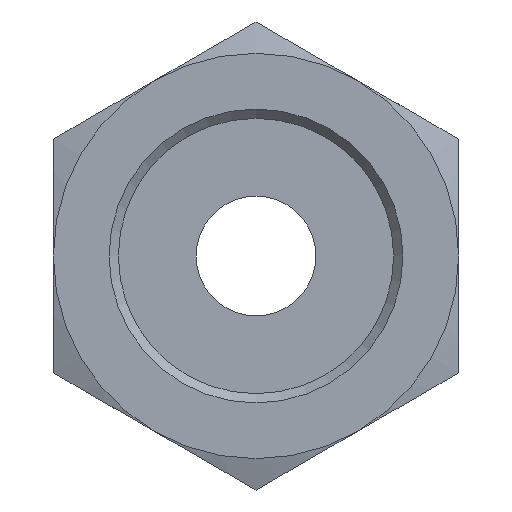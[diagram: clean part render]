
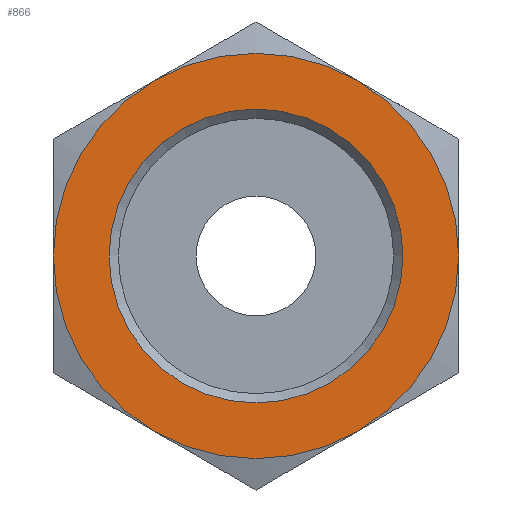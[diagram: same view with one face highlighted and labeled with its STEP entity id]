
A CAD part, front view. The second image highlights one B-rep face of the part: STEP entity #866.
In plain terms, the highlighted planar face has unit normal (0, -1, 0).
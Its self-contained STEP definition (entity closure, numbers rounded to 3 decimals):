
#35=FACE_BOUND('',#229,.T.);
#112=PLANE('',#1031);
#165=FACE_OUTER_BOUND('',#228,.T.);
#228=EDGE_LOOP('',(#733,#734,#735,#736,#737,#738));
#229=EDGE_LOOP('',(#739));
#271=CIRCLE('',#998,11.);
#272=CIRCLE('',#1000,11.);
#273=CIRCLE('',#1002,11.);
#274=CIRCLE('',#1004,11.);
#275=CIRCLE('',#1006,11.);
#276=CIRCLE('',#1008,11.);
#283=CIRCLE('',#1026,7.975);
#382=VERTEX_POINT('',#1489);
#383=VERTEX_POINT('',#1493);
#385=VERTEX_POINT('',#1500);
#387=VERTEX_POINT('',#1510);
#389=VERTEX_POINT('',#1523);
#391=VERTEX_POINT('',#1533);
#405=VERTEX_POINT('',#1617);
#481=EDGE_CURVE('',#382,#383,#271,.T.);
#484=EDGE_CURVE('',#385,#382,#272,.T.);
#487=EDGE_CURVE('',#387,#385,#273,.T.);
#489=EDGE_CURVE('',#389,#387,#274,.T.);
#492=EDGE_CURVE('',#391,#389,#275,.T.);
#495=EDGE_CURVE('',#383,#391,#276,.T.);
#520=EDGE_CURVE('',#405,#405,#283,.T.);
#733=ORIENTED_EDGE('',*,*,#495,.T.);
#734=ORIENTED_EDGE('',*,*,#492,.T.);
#735=ORIENTED_EDGE('',*,*,#489,.T.);
#736=ORIENTED_EDGE('',*,*,#487,.T.);
#737=ORIENTED_EDGE('',*,*,#484,.T.);
#738=ORIENTED_EDGE('',*,*,#481,.T.);
#739=ORIENTED_EDGE('',*,*,#520,.F.);
#866=ADVANCED_FACE('',(#165,#35),#112,.F.);
#998=AXIS2_PLACEMENT_3D('',#1497,#1181,#1182);
#1000=AXIS2_PLACEMENT_3D('',#1507,#1185,#1186);
#1002=AXIS2_PLACEMENT_3D('',#1517,#1189,#1190);
#1004=AXIS2_PLACEMENT_3D('',#1524,#1193,#1194);
#1006=AXIS2_PLACEMENT_3D('',#1534,#1197,#1198);
#1008=AXIS2_PLACEMENT_3D('',#1543,#1201,#1202);
#1026=AXIS2_PLACEMENT_3D('',#1618,#1242,#1243);
#1031=AXIS2_PLACEMENT_3D('',#1628,#1254,#1255);
#1181=DIRECTION('center_axis',(0.,-1.,0.));
#1182=DIRECTION('ref_axis',(1.,0.,0.));
#1185=DIRECTION('center_axis',(0.,-1.,0.));
#1186=DIRECTION('ref_axis',(1.,0.,0.));
#1189=DIRECTION('center_axis',(0.,-1.,0.));
#1190=DIRECTION('ref_axis',(1.,0.,0.));
#1193=DIRECTION('center_axis',(0.,-1.,0.));
#1194=DIRECTION('ref_axis',(1.,0.,0.));
#1197=DIRECTION('center_axis',(0.,-1.,0.));
#1198=DIRECTION('ref_axis',(1.,0.,0.));
#1201=DIRECTION('center_axis',(0.,-1.,0.));
#1202=DIRECTION('ref_axis',(1.,0.,0.));
#1242=DIRECTION('center_axis',(0.,-1.,0.));
#1243=DIRECTION('ref_axis',(-1.,0.,0.));
#1254=DIRECTION('center_axis',(0.,1.,0.));
#1255=DIRECTION('ref_axis',(0.,0.,1.));
#1489=CARTESIAN_POINT('',(-5.5,0.,9.526));
#1493=CARTESIAN_POINT('',(-11.,0.,0.));
#1497=CARTESIAN_POINT('Origin',(0.,0.,0.));
#1500=CARTESIAN_POINT('',(5.5,0.,9.526));
#1507=CARTESIAN_POINT('Origin',(0.,0.,0.));
#1510=CARTESIAN_POINT('',(11.,0.,0.));
#1517=CARTESIAN_POINT('Origin',(0.,0.,0.));
#1523=CARTESIAN_POINT('',(5.5,0.,-9.526));
#1524=CARTESIAN_POINT('Origin',(0.,0.,0.));
#1533=CARTESIAN_POINT('',(-5.5,0.,-9.526));
#1534=CARTESIAN_POINT('Origin',(0.,0.,0.));
#1543=CARTESIAN_POINT('Origin',(0.,0.,0.));
#1617=CARTESIAN_POINT('',(7.975,0.,0.));
#1618=CARTESIAN_POINT('Origin',(0.,0.,0.));
#1628=CARTESIAN_POINT('Origin',(0.,0.,0.));
